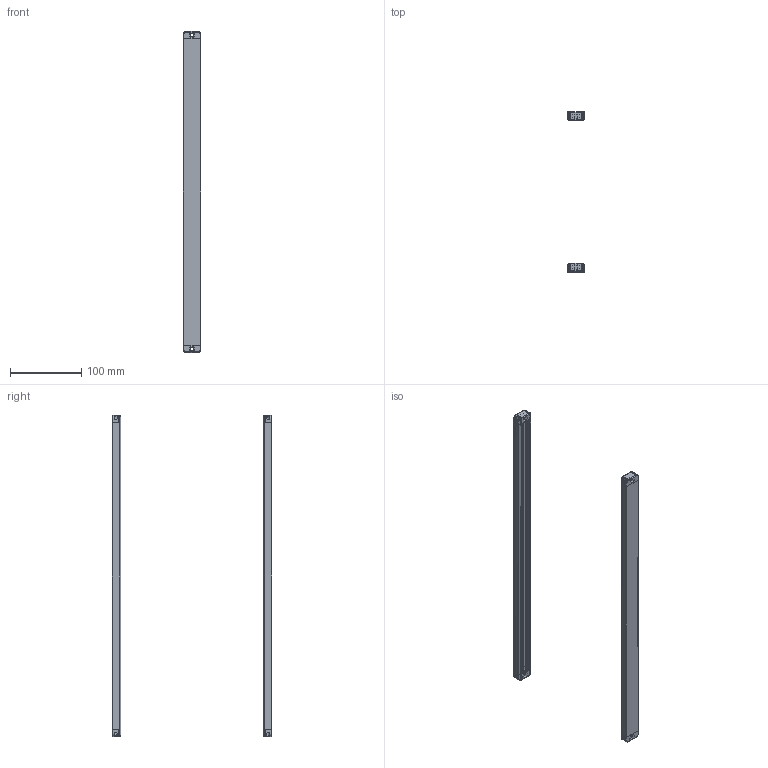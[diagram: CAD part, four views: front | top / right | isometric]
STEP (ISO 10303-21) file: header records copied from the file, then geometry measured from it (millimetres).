
FILE_DESCRIPTION (( 'STEP AP203' ), '1' );
FILE_NAME ('ZDB2220-430.STEP', '2022-08-31T03:13:02', ( 'Windows 蚚誧' ), ( 'Organization' ), 'SwSTEP 2.0', 'SolidWorks 2020', '' );
FILE_SCHEMA (( 'CONFIG_CONTROL_DESIGN' ));
Length unit declared in the file: millimetre
Products named in the file (4): 媼啃3臏倰第; 傷裔衵; ZDB2220-430; 傷裔酘諉彶
Assembly tree (6 placements, depth 2):
  ZDB2220-430
    傷裔衵  x2
    傷裔酘諉彶  x2
    媼啃3臏倰第  x2
Bounding box: 25 x 224 x 450 mm (x, y, z)
Volume: 87666.4 mm3; surface area: 140814.3 mm2
Topology: 6 solids, 6 shells, 650 faces, 1758 edges, 1124 vertices
Faces by surface type: plane 406, cylinder 188, torus 32, bspline 16, sphere 8
Entity records: 11427 total; most frequent: CARTESIAN_POINT 2721, ORIENTED_EDGE 1750, DIRECTION 1687, EDGE_CURVE 875, VECTOR 631, LINE 631, VERTEX_POINT 562, AXIS2_PLACEMENT_3D 528
